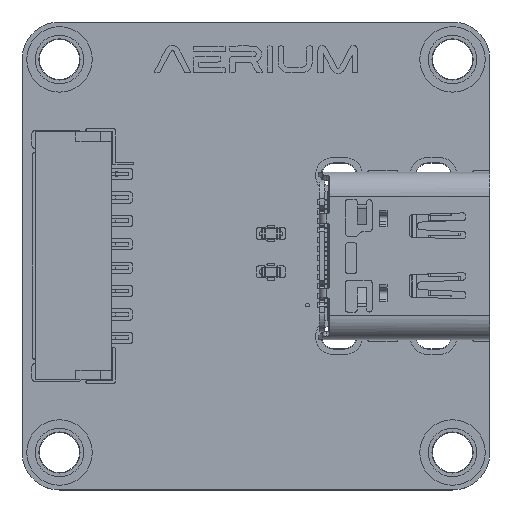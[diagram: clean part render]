
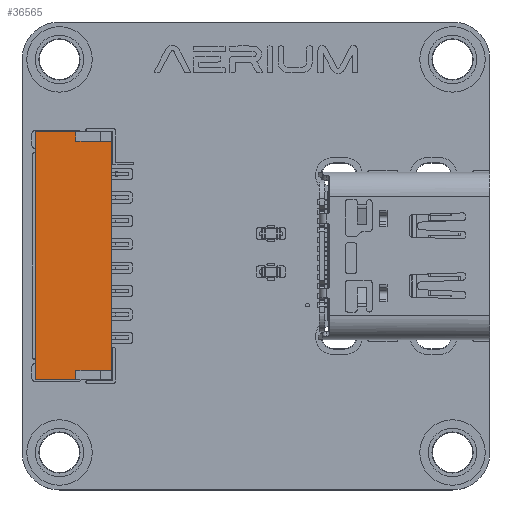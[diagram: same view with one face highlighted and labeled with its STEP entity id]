
A CAD part, top view. The second image highlights one B-rep face of the part: STEP entity #36565.
In plain terms, the highlighted planar face has unit normal (0, 0, 1).
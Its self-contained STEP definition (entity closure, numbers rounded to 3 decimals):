
#1570=PLANE('',#39238);
#3843=FACE_OUTER_BOUND('',#5806,.T.);
#5806=EDGE_LOOP('',(#30942,#30943,#30944,#30945,#30946,#30947,#30948,#30949));
#8847=LINE('',#58953,#13087);
#8888=LINE('',#59033,#13128);
#8973=LINE('',#59205,#13213);
#8974=LINE('',#59207,#13214);
#8975=LINE('',#59208,#13215);
#8976=LINE('',#59210,#13216);
#8977=LINE('',#59212,#13217);
#8978=LINE('',#59213,#13218);
#13087=VECTOR('',#45826,1.);
#13128=VECTOR('',#45879,1.);
#13213=VECTOR('',#45966,1.);
#13214=VECTOR('',#45967,1.);
#13215=VECTOR('',#45968,1.);
#13216=VECTOR('',#45969,1.);
#13217=VECTOR('',#45970,1.);
#13218=VECTOR('',#45971,1.);
#18034=VERTEX_POINT('',#58950);
#18035=VERTEX_POINT('',#58952);
#18068=VERTEX_POINT('',#59031);
#18153=VERTEX_POINT('',#59203);
#18154=VERTEX_POINT('',#59204);
#18155=VERTEX_POINT('',#59206);
#18156=VERTEX_POINT('',#59209);
#18157=VERTEX_POINT('',#59211);
#22677=EDGE_CURVE('',#18035,#18034,#8847,.T.);
#22718=EDGE_CURVE('',#18034,#18068,#8888,.T.);
#22803=EDGE_CURVE('',#18153,#18154,#8973,.T.);
#22804=EDGE_CURVE('',#18155,#18153,#8974,.T.);
#22805=EDGE_CURVE('',#18035,#18155,#8975,.T.);
#22806=EDGE_CURVE('',#18156,#18068,#8976,.T.);
#22807=EDGE_CURVE('',#18157,#18156,#8977,.T.);
#22808=EDGE_CURVE('',#18157,#18154,#8978,.T.);
#30942=ORIENTED_EDGE('',*,*,#22803,.F.);
#30943=ORIENTED_EDGE('',*,*,#22804,.F.);
#30944=ORIENTED_EDGE('',*,*,#22805,.F.);
#30945=ORIENTED_EDGE('',*,*,#22677,.T.);
#30946=ORIENTED_EDGE('',*,*,#22718,.T.);
#30947=ORIENTED_EDGE('',*,*,#22806,.F.);
#30948=ORIENTED_EDGE('',*,*,#22807,.F.);
#30949=ORIENTED_EDGE('',*,*,#22808,.T.);
#36565=ADVANCED_FACE('',(#3843),#1570,.T.);
#39238=AXIS2_PLACEMENT_3D('',#59202,#45964,#45965);
#45826=DIRECTION('',(0.,-1.,0.));
#45879=DIRECTION('',(1.,0.,0.));
#45964=DIRECTION('center_axis',(0.,0.,1.));
#45965=DIRECTION('ref_axis',(0.,-1.,0.));
#45966=DIRECTION('',(1.,0.,0.));
#45967=DIRECTION('',(0.,1.,0.));
#45968=DIRECTION('',(1.,0.,0.));
#45969=DIRECTION('',(0.,-1.,0.));
#45970=DIRECTION('',(1.,0.,0.));
#45971=DIRECTION('',(0.,1.,0.));
#58950=CARTESIAN_POINT('',(-6.625,-2.47,4.245));
#58952=CARTESIAN_POINT('',(-6.625,-0.32,4.245));
#58953=CARTESIAN_POINT('',(-6.625,1.58,4.245));
#59031=CARTESIAN_POINT('',(6.625,-2.47,4.245));
#59033=CARTESIAN_POINT('',(-6.625,-2.47,4.245));
#59202=CARTESIAN_POINT('Origin',(-6.625,1.58,4.245));
#59203=CARTESIAN_POINT('',(-6.125,1.58,4.245));
#59204=CARTESIAN_POINT('',(6.125,1.58,4.245));
#59205=CARTESIAN_POINT('',(-6.625,1.58,4.245));
#59206=CARTESIAN_POINT('',(-6.125,-0.32,4.245));
#59207=CARTESIAN_POINT('',(-6.125,-0.32,4.245));
#59208=CARTESIAN_POINT('',(-6.625,-0.32,4.245));
#59209=CARTESIAN_POINT('',(6.625,-0.32,4.245));
#59210=CARTESIAN_POINT('',(6.625,1.58,4.245));
#59211=CARTESIAN_POINT('',(6.125,-0.32,4.245));
#59212=CARTESIAN_POINT('',(6.125,-0.32,4.245));
#59213=CARTESIAN_POINT('',(6.125,-0.32,4.245));
